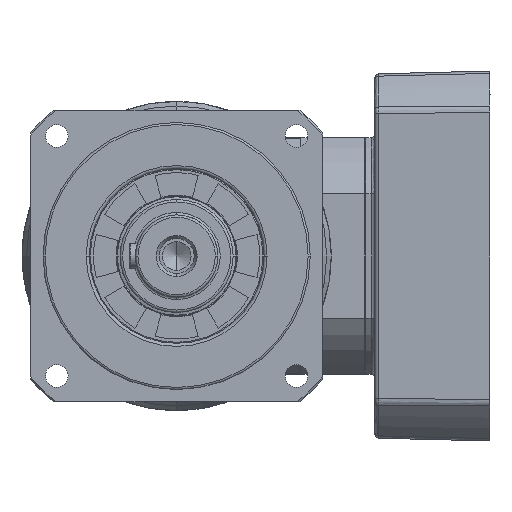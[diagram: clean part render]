
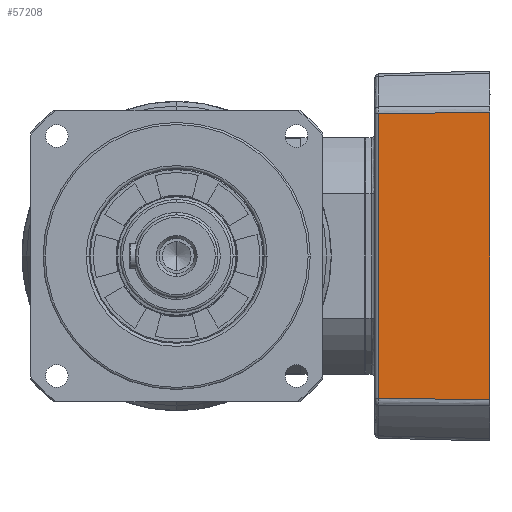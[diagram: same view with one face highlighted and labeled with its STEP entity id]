
A CAD part, left-side view. The second image highlights one B-rep face of the part: STEP entity #57208.
In plain terms, the highlighted planar face has unit normal (-1, 0.024, 0).
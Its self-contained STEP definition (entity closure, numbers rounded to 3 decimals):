
#108 = PLANE ( 'NONE',  #68135 ) ;
#920 = DIRECTION ( 'NONE',  ( 0., 0., 1. ) ) ;
#4442 = LINE ( 'NONE', #92370, #100898 ) ;
#5070 = ORIENTED_EDGE ( 'NONE', *, *, #61614, .F. ) ;
#10507 = DIRECTION ( 'NONE',  ( -0.024, -1., 0.009 ) ) ;
#18171 = LINE ( 'NONE', #50076, #73315 ) ;
#21370 = EDGE_CURVE ( 'NONE', #81245, #100183, #72773, .T. ) ;
#26925 = EDGE_LOOP ( 'NONE', ( #5070, #68269, #101935, #69921 ) ) ;
#37391 = DIRECTION ( 'NONE',  ( 0., 0., -1. ) ) ;
#40233 = CARTESIAN_POINT ( 'NONE',  ( 77.541, -101.131, 219.847 ) ) ;
#45104 = VECTOR ( 'NONE', #10507, 1000. ) ;
#47710 = DIRECTION ( 'NONE',  ( 1., -0.024, 0. ) ) ;
#50076 = CARTESIAN_POINT ( 'NONE',  ( 77.541, -101.131, 78.911 ) ) ;
#50891 = DIRECTION ( 'NONE',  ( 0.024, 1., 0.009 ) ) ;
#51619 = CARTESIAN_POINT ( 'NONE',  ( 76.22, -155.18, 80.678 ) ) ;
#57208 = ADVANCED_FACE ( 'NONE', ( #73865 ), #108, .F. ) ;
#57221 = CARTESIAN_POINT ( 'NONE',  ( 76.22, -155.18, 80.678 ) ) ;
#61488 = EDGE_CURVE ( 'NONE', #100183, #90101, #4442, .T. ) ;
#61614 = EDGE_CURVE ( 'NONE', #90101, #90883, #65045, .T. ) ;
#64056 = VECTOR ( 'NONE', #50891, 1000. ) ;
#65045 = LINE ( 'NONE', #57221, #64056 ) ;
#68135 = AXIS2_PLACEMENT_3D ( 'NONE', #72831, #47710, #96892 ) ;
#68269 = ORIENTED_EDGE ( 'NONE', *, *, #61488, .F. ) ;
#69921 = ORIENTED_EDGE ( 'NONE', *, *, #70380, .F. ) ;
#70380 = EDGE_CURVE ( 'NONE', #90883, #81245, #18171, .T. ) ;
#72773 = LINE ( 'NONE', #73807, #45104 ) ;
#72831 = CARTESIAN_POINT ( 'NONE',  ( 76.22, -155.18, 78.911 ) ) ;
#73315 = VECTOR ( 'NONE', #920, 1000. ) ;
#73807 = CARTESIAN_POINT ( 'NONE',  ( 77.541, -101.131, 219.847 ) ) ;
#73865 = FACE_OUTER_BOUND ( 'NONE', #26925, .T. ) ;
#74906 = CARTESIAN_POINT ( 'NONE',  ( 76.22, -155.18, 220.322 ) ) ;
#77434 = CARTESIAN_POINT ( 'NONE',  ( 77.541, -101.131, 81.153 ) ) ;
#81245 = VERTEX_POINT ( 'NONE', #40233 ) ;
#90101 = VERTEX_POINT ( 'NONE', #51619 ) ;
#90883 = VERTEX_POINT ( 'NONE', #77434 ) ;
#92370 = CARTESIAN_POINT ( 'NONE',  ( 76.22, -155.18, -45441.256 ) ) ;
#96892 = DIRECTION ( 'NONE',  ( 0.024, 1., 0. ) ) ;
#100183 = VERTEX_POINT ( 'NONE', #74906 ) ;
#100898 = VECTOR ( 'NONE', #37391, 1000. ) ;
#101935 = ORIENTED_EDGE ( 'NONE', *, *, #21370, .F. ) ;
